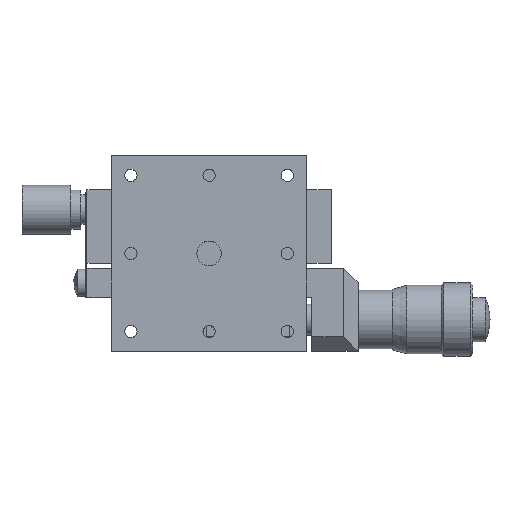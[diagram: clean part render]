
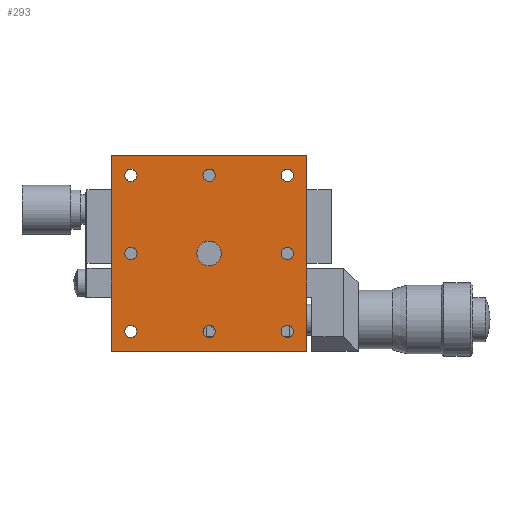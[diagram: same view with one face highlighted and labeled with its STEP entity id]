
A CAD part, top view. The second image highlights one B-rep face of the part: STEP entity #293.
In plain terms, the highlighted planar face has unit normal (0, 0, 1).
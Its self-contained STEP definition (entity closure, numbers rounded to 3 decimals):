
#293 = ADVANCED_FACE( '', ( #683, #684, #685, #686, #687, #688, #689, #690, #691, #692 ), #693, .T. );
#683 = FACE_BOUND( '', #1216, .T. );
#684 = FACE_BOUND( '', #1217, .T. );
#685 = FACE_BOUND( '', #1218, .T. );
#686 = FACE_BOUND( '', #1219, .T. );
#687 = FACE_BOUND( '', #1220, .T. );
#688 = FACE_BOUND( '', #1221, .T. );
#689 = FACE_BOUND( '', #1222, .T. );
#690 = FACE_BOUND( '', #1223, .T. );
#691 = FACE_OUTER_BOUND( '', #1224, .T. );
#692 = FACE_BOUND( '', #1225, .T. );
#693 = PLANE( '', #1226 );
#1216 = EDGE_LOOP( '', ( #1982 ) );
#1217 = EDGE_LOOP( '', ( #1983 ) );
#1218 = EDGE_LOOP( '', ( #1984 ) );
#1219 = EDGE_LOOP( '', ( #1985 ) );
#1220 = EDGE_LOOP( '', ( #1986 ) );
#1221 = EDGE_LOOP( '', ( #1987 ) );
#1222 = EDGE_LOOP( '', ( #1988 ) );
#1223 = EDGE_LOOP( '', ( #1989 ) );
#1224 = EDGE_LOOP( '', ( #1990, #1991, #1992, #1993 ) );
#1225 = EDGE_LOOP( '', ( #1994 ) );
#1226 = AXIS2_PLACEMENT_3D( '', #1995, #1996, #1997 );
#1982 = ORIENTED_EDGE( '', *, *, #2946, .T. );
#1983 = ORIENTED_EDGE( '', *, *, #2947, .T. );
#1984 = ORIENTED_EDGE( '', *, *, #2948, .T. );
#1985 = ORIENTED_EDGE( '', *, *, #2783, .T. );
#1986 = ORIENTED_EDGE( '', *, *, #2856, .T. );
#1987 = ORIENTED_EDGE( '', *, *, #2771, .T. );
#1988 = ORIENTED_EDGE( '', *, *, #2949, .T. );
#1989 = ORIENTED_EDGE( '', *, *, #2873, .T. );
#1990 = ORIENTED_EDGE( '', *, *, #2950, .T. );
#1991 = ORIENTED_EDGE( '', *, *, #2951, .F. );
#1992 = ORIENTED_EDGE( '', *, *, #2952, .F. );
#1993 = ORIENTED_EDGE( '', *, *, #2953, .F. );
#1994 = ORIENTED_EDGE( '', *, *, #2933, .T. );
#1995 = CARTESIAN_POINT( '', ( 0., 0., 40. ) );
#1996 = DIRECTION( '', ( 0., 0., 1. ) );
#1997 = DIRECTION( '', ( 1., 0., 0. ) );
#2771 = EDGE_CURVE( '', #3233, #3233, #3234, .T. );
#2783 = EDGE_CURVE( '', #3253, #3253, #3254, .T. );
#2856 = EDGE_CURVE( '', #3382, #3382, #3383, .T. );
#2873 = EDGE_CURVE( '', #3409, #3409, #3410, .T. );
#2933 = EDGE_CURVE( '', #3500, #3500, #3501, .T. );
#2946 = EDGE_CURVE( '', #3519, #3519, #3520, .T. );
#2947 = EDGE_CURVE( '', #3521, #3521, #3522, .T. );
#2948 = EDGE_CURVE( '', #3523, #3523, #3524, .T. );
#2949 = EDGE_CURVE( '', #3525, #3525, #3526, .T. );
#2950 = EDGE_CURVE( '', #3527, #3528, #3529, .T. );
#2951 = EDGE_CURVE( '', #3530, #3528, #3531, .T. );
#2952 = EDGE_CURVE( '', #3532, #3530, #3533, .T. );
#2953 = EDGE_CURVE( '', #3527, #3532, #3534, .T. );
#3233 = VERTEX_POINT( '', #3901 );
#3234 = CIRCLE( '', #3902, 1.25 );
#3253 = VERTEX_POINT( '', #3928 );
#3254 = CIRCLE( '', #3929, 1.25 );
#3382 = VERTEX_POINT( '', #4105 );
#3383 = CIRCLE( '', #4106, 1.25 );
#3409 = VERTEX_POINT( '', #4139 );
#3410 = CIRCLE( '', #4140, 1.25 );
#3500 = VERTEX_POINT( '', #4260 );
#3501 = CIRCLE( '', #4261, 2.5 );
#3519 = VERTEX_POINT( '', #4283 );
#3520 = CIRCLE( '', #4284, 1.25 );
#3521 = VERTEX_POINT( '', #4285 );
#3522 = CIRCLE( '', #4286, 1.25 );
#3523 = VERTEX_POINT( '', #4287 );
#3524 = CIRCLE( '', #4288, 1.25 );
#3525 = VERTEX_POINT( '', #4289 );
#3526 = CIRCLE( '', #4290, 1.25 );
#3527 = VERTEX_POINT( '', #4291 );
#3528 = VERTEX_POINT( '', #4292 );
#3529 = LINE( '', #4293, #4294 );
#3530 = VERTEX_POINT( '', #4295 );
#3531 = LINE( '', #4296, #4297 );
#3532 = VERTEX_POINT( '', #4298 );
#3533 = LINE( '', #4299, #4300 );
#3534 = LINE( '', #4301, #4302 );
#3901 = CARTESIAN_POINT( '', ( 16., -17.25, 40. ) );
#3902 = AXIS2_PLACEMENT_3D( '', #4719, #4720, #4721 );
#3928 = CARTESIAN_POINT( '', ( 16., 14.75, 40. ) );
#3929 = AXIS2_PLACEMENT_3D( '', #4732, #4733, #4734 );
#4105 = CARTESIAN_POINT( '', ( 16., -1.25, 40. ) );
#4106 = AXIS2_PLACEMENT_3D( '', #4819, #4820, #4821 );
#4139 = CARTESIAN_POINT( '', ( -16., -17.25, 40. ) );
#4140 = AXIS2_PLACEMENT_3D( '', #4841, #4842, #4843 );
#4260 = CARTESIAN_POINT( '', ( 2.5, 0., 40. ) );
#4261 = AXIS2_PLACEMENT_3D( '', #4916, #4917, #4918 );
#4283 = CARTESIAN_POINT( '', ( -16., -1.25, 40. ) );
#4284 = AXIS2_PLACEMENT_3D( '', #4932, #4933, #4934 );
#4285 = CARTESIAN_POINT( '', ( -16., 14.75, 40. ) );
#4286 = AXIS2_PLACEMENT_3D( '', #4935, #4936, #4937 );
#4287 = CARTESIAN_POINT( '', ( 0., 14.75, 40. ) );
#4288 = AXIS2_PLACEMENT_3D( '', #4938, #4939, #4940 );
#4289 = CARTESIAN_POINT( '', ( 0., -17.25, 40. ) );
#4290 = AXIS2_PLACEMENT_3D( '', #4941, #4942, #4943 );
#4291 = CARTESIAN_POINT( '', ( 20., -20., 40. ) );
#4292 = CARTESIAN_POINT( '', ( 20., 20., 40. ) );
#4293 = CARTESIAN_POINT( '', ( 20., 0., 40. ) );
#4294 = VECTOR( '', #4944, 1000. );
#4295 = CARTESIAN_POINT( '', ( -20., 20., 40. ) );
#4296 = CARTESIAN_POINT( '', ( 0., 20., 40. ) );
#4297 = VECTOR( '', #4945, 1000. );
#4298 = CARTESIAN_POINT( '', ( -20., -20., 40. ) );
#4299 = CARTESIAN_POINT( '', ( -20., 1.25, 40. ) );
#4300 = VECTOR( '', #4946, 1000. );
#4301 = CARTESIAN_POINT( '', ( 0., -20., 40. ) );
#4302 = VECTOR( '', #4947, 1000. );
#4719 = CARTESIAN_POINT( '', ( 16., -16., 40. ) );
#4720 = DIRECTION( '', ( 0., 0., -1. ) );
#4721 = DIRECTION( '', ( 0., -1., 0. ) );
#4732 = CARTESIAN_POINT( '', ( 16., 16., 40. ) );
#4733 = DIRECTION( '', ( 0., 0., -1. ) );
#4734 = DIRECTION( '', ( 0., -1., 0. ) );
#4819 = CARTESIAN_POINT( '', ( 16., 0., 40. ) );
#4820 = DIRECTION( '', ( 0., 0., -1. ) );
#4821 = DIRECTION( '', ( 0., -1., 0. ) );
#4841 = CARTESIAN_POINT( '', ( -16., -16., 40. ) );
#4842 = DIRECTION( '', ( 0., 0., -1. ) );
#4843 = DIRECTION( '', ( 0., -1., 0. ) );
#4916 = CARTESIAN_POINT( '', ( 0., 0., 40. ) );
#4917 = DIRECTION( '', ( 0., 0., -1. ) );
#4918 = DIRECTION( '', ( 1., 0., 0. ) );
#4932 = CARTESIAN_POINT( '', ( -16., 0., 40. ) );
#4933 = DIRECTION( '', ( 0., 0., -1. ) );
#4934 = DIRECTION( '', ( 0., -1., 0. ) );
#4935 = CARTESIAN_POINT( '', ( -16., 16., 40. ) );
#4936 = DIRECTION( '', ( 0., 0., -1. ) );
#4937 = DIRECTION( '', ( 0., -1., 0. ) );
#4938 = CARTESIAN_POINT( '', ( 0., 16., 40. ) );
#4939 = DIRECTION( '', ( 0., 0., -1. ) );
#4940 = DIRECTION( '', ( 0., -1., 0. ) );
#4941 = CARTESIAN_POINT( '', ( 0., -16., 40. ) );
#4942 = DIRECTION( '', ( 0., 0., -1. ) );
#4943 = DIRECTION( '', ( 0., -1., 0. ) );
#4944 = DIRECTION( '', ( 0., 1., 0. ) );
#4945 = DIRECTION( '', ( 1., 0., 0. ) );
#4946 = DIRECTION( '', ( 0., 1., 0. ) );
#4947 = DIRECTION( '', ( -1., 0., 0. ) );
